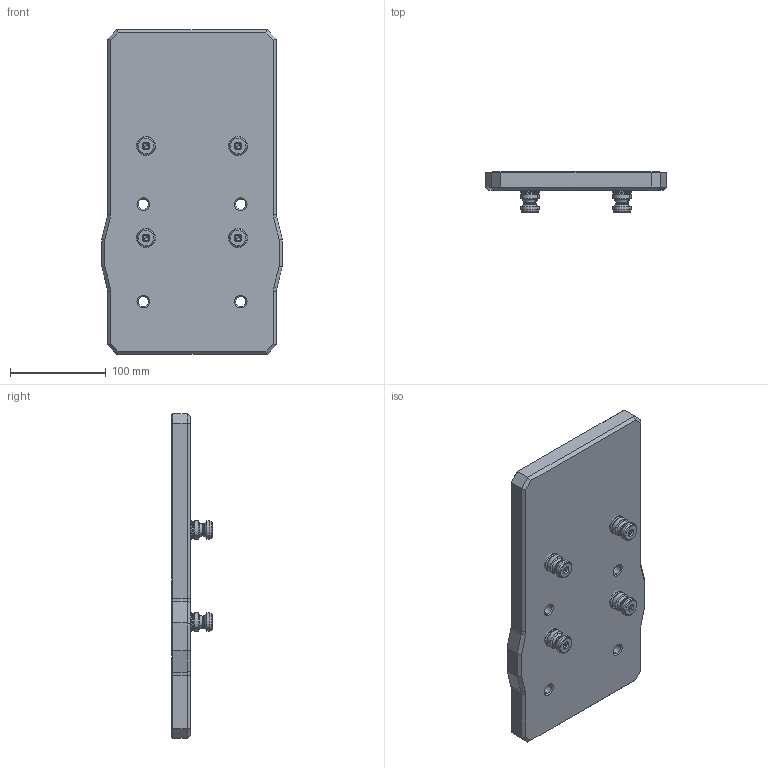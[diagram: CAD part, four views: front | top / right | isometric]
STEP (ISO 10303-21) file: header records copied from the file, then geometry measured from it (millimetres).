
FILE_DESCRIPTION (( 'STEP AP214' ), '1' );
FILE_NAME ('RL96-KDX6.STEP', '2019-05-06T22:17:31', ( '' ), ( '' ), 'SwSTEP 2.0', 'SolidWorks 2018', '' );
FILE_SCHEMA (( 'AUTOMOTIVE_DESIGN' ));
Length unit declared in the file: inch
Products named in the file (5): PS20F; 39874.CPSS_91390A162; PS20F-1_HARD TURN; AKDX6-RL96; RL96-KDX6
Assembly tree (7 placements, depth 3):
  RL96-KDX6
    AKDX6-RL96
    PS20F  x4
      PS20F-1_HARD TURN
      39874.CPSS_91390A162
Bounding box: 187.96 x 41.78 x 338 mm (x, y, z)
Volume: 1150045 mm3; surface area: 157070.6 mm2
Topology: 9 solids, 9 shells, 690 faces, 1644 edges, 964 vertices
Faces by surface type: cylinder 216, plane 194, cone 164, torus 104, bspline 12
Entity records: 10614 total; most frequent: CARTESIAN_POINT 4279, DIRECTION 1254, ORIENTED_EDGE 1214, EDGE_CURVE 607, AXIS2_PLACEMENT_3D 479, VERTEX_POINT 361, VECTOR 296, LINE 296
